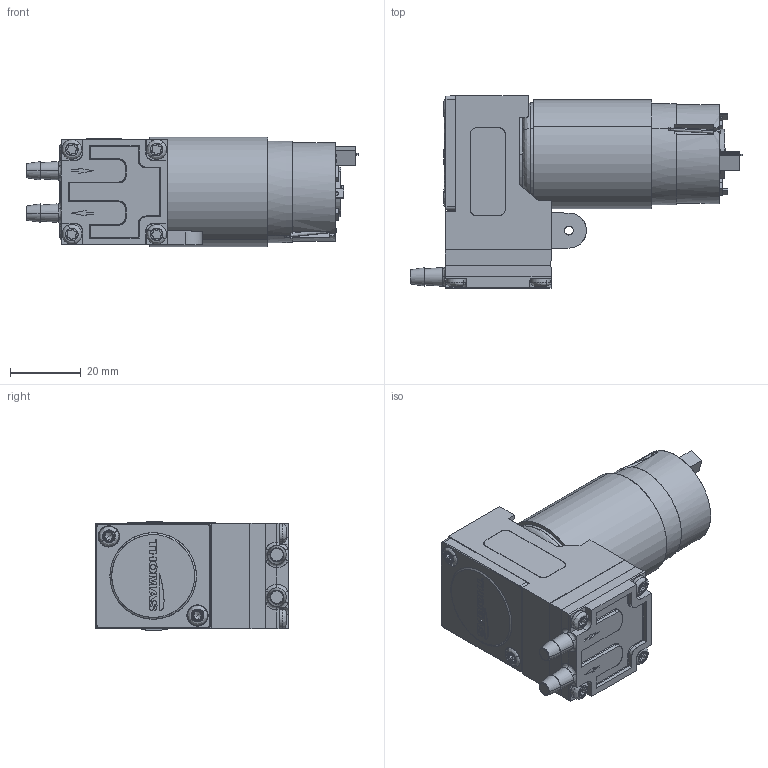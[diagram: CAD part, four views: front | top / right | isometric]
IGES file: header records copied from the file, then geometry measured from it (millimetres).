
Start section: SolidWorks IGES file using analytic representation for surfaces
Global section: file name: C:\Users\KXP2111\Desktop\MF20004-Desktop\Output\04 14100126-18\14100126-18.IGS; native system: SolidWorks 2018; preprocessor: SolidWorks 2018; author: KXP2111; date: 190828.145104; units: millimetre
Bounding box: 94.05 x 54.4 x 31 mm (x, y, z)
Surface area: 15701.7 mm2 (no closed solid volume)
Topology: 0 solids, 0 shells, 1136 faces, 9813 edges, 9805 vertices
Faces by surface type: bspline 889, revolution 247
